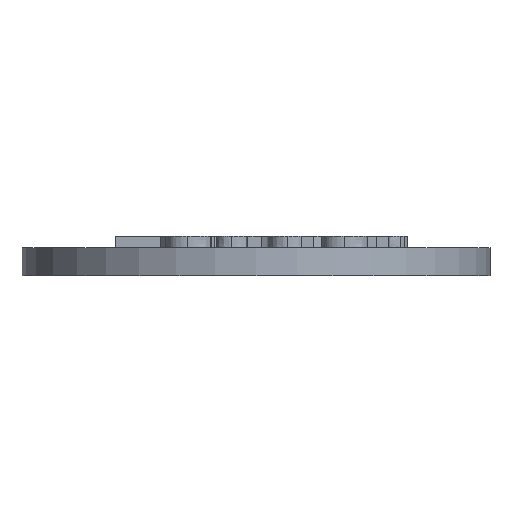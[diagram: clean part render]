
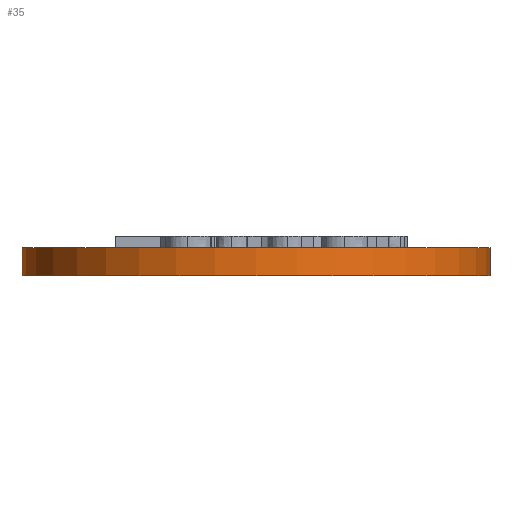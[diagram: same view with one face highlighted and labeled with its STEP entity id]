
A CAD part, front view. The second image highlights one B-rep face of the part: STEP entity #35.
In plain terms, the highlighted cylindrical face has radius 20 mm (diameter 40 mm), a full revolution.
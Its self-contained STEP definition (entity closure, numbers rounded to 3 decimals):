
#35 = ADVANCED_FACE('',(#36),#50,.T.);
#36 = FACE_BOUND('',#37,.T.);
#37 = EDGE_LOOP('',(#38,#68,#95,#96));
#38 = ORIENTED_EDGE('',*,*,#39,.T.);
#39 = EDGE_CURVE('',#40,#42,#44,.T.);
#40 = VERTEX_POINT('',#41);
#41 = CARTESIAN_POINT('',(20.,0.,0.));
#42 = VERTEX_POINT('',#43);
#43 = CARTESIAN_POINT('',(20.,0.,-2.4));
#44 = SEAM_CURVE('',#45,(#49,#61),.PCURVE_S1.);
#45 = LINE('',#46,#47);
#46 = CARTESIAN_POINT('',(20.,0.,0.));
#47 = VECTOR('',#48,1.);
#48 = DIRECTION('',(0.,0.,-1.));
#49 = PCURVE('',#50,#55);
#50 = CYLINDRICAL_SURFACE('',#51,20.);
#51 = AXIS2_PLACEMENT_3D('',#52,#53,#54);
#52 = CARTESIAN_POINT('',(0.,0.,0.));
#53 = DIRECTION('',(0.,0.,1.));
#54 = DIRECTION('',(1.,0.,-0.));
#55 = DEFINITIONAL_REPRESENTATION('',(#56),#60);
#56 = LINE('',#57,#58);
#57 = CARTESIAN_POINT('',(0.,0.));
#58 = VECTOR('',#59,1.);
#59 = DIRECTION('',(0.,-1.));
#60 = ( GEOMETRIC_REPRESENTATION_CONTEXT(2) 
PARAMETRIC_REPRESENTATION_CONTEXT() REPRESENTATION_CONTEXT('2D SPACE',''
  ) );
#61 = PCURVE('',#50,#62);
#62 = DEFINITIONAL_REPRESENTATION('',(#63),#67);
#63 = LINE('',#64,#65);
#64 = CARTESIAN_POINT('',(6.283,0.));
#65 = VECTOR('',#66,1.);
#66 = DIRECTION('',(0.,-1.));
#67 = ( GEOMETRIC_REPRESENTATION_CONTEXT(2) 
PARAMETRIC_REPRESENTATION_CONTEXT() REPRESENTATION_CONTEXT('2D SPACE',''
  ) );
#68 = ORIENTED_EDGE('',*,*,#69,.T.);
#69 = EDGE_CURVE('',#42,#42,#70,.T.);
#70 = SURFACE_CURVE('',#71,(#76,#83),.PCURVE_S1.);
#71 = CIRCLE('',#72,20.);
#72 = AXIS2_PLACEMENT_3D('',#73,#74,#75);
#73 = CARTESIAN_POINT('',(0.,0.,-2.4));
#74 = DIRECTION('',(0.,0.,1.));
#75 = DIRECTION('',(1.,0.,-0.));
#76 = PCURVE('',#50,#77);
#77 = DEFINITIONAL_REPRESENTATION('',(#78),#82);
#78 = LINE('',#79,#80);
#79 = CARTESIAN_POINT('',(0.,-2.4));
#80 = VECTOR('',#81,1.);
#81 = DIRECTION('',(1.,0.));
#82 = ( GEOMETRIC_REPRESENTATION_CONTEXT(2) 
PARAMETRIC_REPRESENTATION_CONTEXT() REPRESENTATION_CONTEXT('2D SPACE',''
  ) );
#83 = PCURVE('',#84,#89);
#84 = PLANE('',#85);
#85 = AXIS2_PLACEMENT_3D('',#86,#87,#88);
#86 = CARTESIAN_POINT('',(0.,0.,-2.4));
#87 = DIRECTION('',(0.,0.,1.));
#88 = DIRECTION('',(1.,0.,-0.));
#89 = DEFINITIONAL_REPRESENTATION('',(#90),#94);
#90 = CIRCLE('',#91,20.);
#91 = AXIS2_PLACEMENT_2D('',#92,#93);
#92 = CARTESIAN_POINT('',(0.,0.));
#93 = DIRECTION('',(1.,0.));
#94 = ( GEOMETRIC_REPRESENTATION_CONTEXT(2) 
PARAMETRIC_REPRESENTATION_CONTEXT() REPRESENTATION_CONTEXT('2D SPACE',''
  ) );
#95 = ORIENTED_EDGE('',*,*,#39,.F.);
#96 = ORIENTED_EDGE('',*,*,#97,.F.);
#97 = EDGE_CURVE('',#40,#40,#98,.T.);
#98 = SURFACE_CURVE('',#99,(#104,#111),.PCURVE_S1.);
#99 = CIRCLE('',#100,20.);
#100 = AXIS2_PLACEMENT_3D('',#101,#102,#103);
#101 = CARTESIAN_POINT('',(0.,0.,0.));
#102 = DIRECTION('',(0.,0.,1.));
#103 = DIRECTION('',(1.,0.,-0.));
#104 = PCURVE('',#50,#105);
#105 = DEFINITIONAL_REPRESENTATION('',(#106),#110);
#106 = LINE('',#107,#108);
#107 = CARTESIAN_POINT('',(0.,0.));
#108 = VECTOR('',#109,1.);
#109 = DIRECTION('',(1.,0.));
#110 = ( GEOMETRIC_REPRESENTATION_CONTEXT(2) 
PARAMETRIC_REPRESENTATION_CONTEXT() REPRESENTATION_CONTEXT('2D SPACE',''
  ) );
#111 = PCURVE('',#112,#117);
#112 = PLANE('',#113);
#113 = AXIS2_PLACEMENT_3D('',#114,#115,#116);
#114 = CARTESIAN_POINT('',(0.,0.,0.));
#115 = DIRECTION('',(0.,0.,1.));
#116 = DIRECTION('',(1.,0.,-0.));
#117 = DEFINITIONAL_REPRESENTATION('',(#118),#122);
#118 = CIRCLE('',#119,20.);
#119 = AXIS2_PLACEMENT_2D('',#120,#121);
#120 = CARTESIAN_POINT('',(0.,0.));
#121 = DIRECTION('',(1.,0.));
#122 = ( GEOMETRIC_REPRESENTATION_CONTEXT(2) 
PARAMETRIC_REPRESENTATION_CONTEXT() REPRESENTATION_CONTEXT('2D SPACE',''
  ) );
